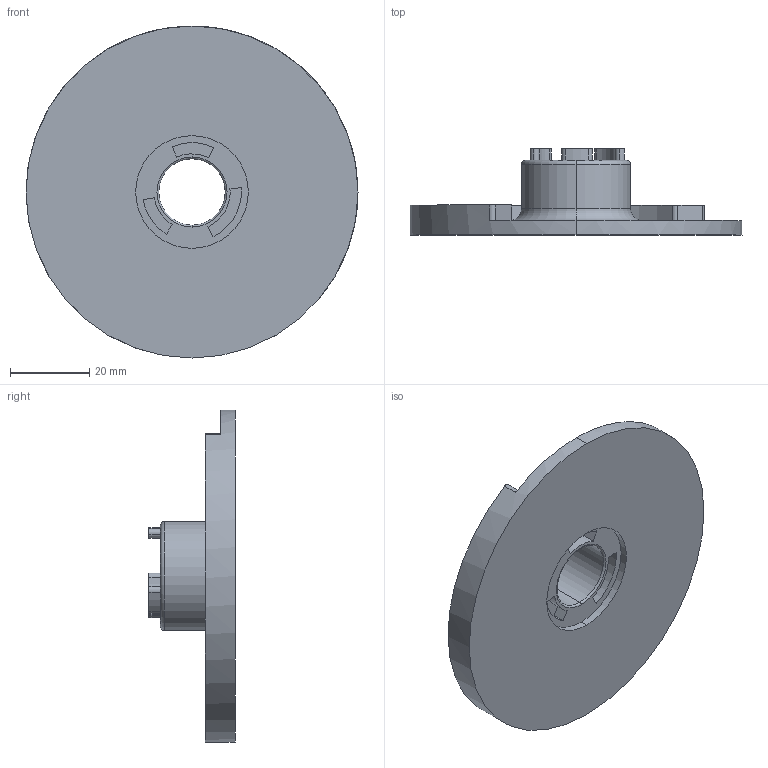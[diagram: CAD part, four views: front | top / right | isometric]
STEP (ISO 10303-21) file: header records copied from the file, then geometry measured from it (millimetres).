
FILE_DESCRIPTION (( 'STEP AP214' ), '1' );
FILE_NAME ('BOWFLEX PART 5.STEP', '2020-04-29T04:56:24', ( '' ), ( '' ), 'SwSTEP 2.0', 'SolidWorks 2019', '' );
FILE_SCHEMA (( 'AUTOMOTIVE_DESIGN' ));
Length unit declared in the file: millimetre
Products named in the file (1): BOWFLEX PART 5
Bounding box: 84 x 21.85 x 84 mm (x, y, z)
Volume: 29534.9 mm3; surface area: 15388.6 mm2
Topology: 1 solids, 1 shells, 89 faces, 226 edges, 148 vertices
Faces by surface type: cylinder 42, plane 33, torus 8, bspline 6
Entity records: 3122 total; most frequent: CARTESIAN_POINT 870, DIRECTION 486, ORIENTED_EDGE 452, EDGE_CURVE 226, AXIS2_PLACEMENT_3D 188, VERTEX_POINT 148, LINE 110, VECTOR 110
